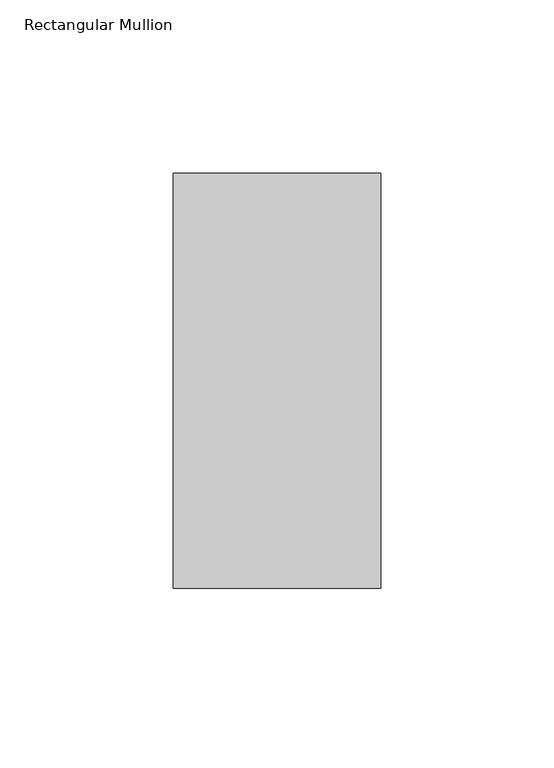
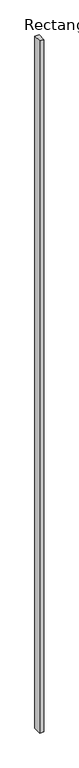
"""IFC4 building model written with IfcOpenShell, lengths in millimetres: member geometry, Rectangular Mullion : Terça."""

import ifcopenshell
import ifcopenshell.guid

model = None  # the IFC model being written
_history = None  # IfcOwnerHistory: only IFC2X3 demands one
_inside = {}  # id of a spatial element -> (the spatial element, [elements in it])
_under = {}  # id of a project, library or spatial element -> (it, [spatial elements below it])
_declared = {}  # id of a project -> (the project, [libraries it declares])
_typed = {}  # id of a type object -> (the type object, [elements of that type])
_made_of = {}  # id of a material, layer set ... -> (it, [elements and type objects made of it])


def new_model(schema):
    """Start an empty IFC model of exactly this schema.

    Asked for "IFC4X3", IfcOpenShell would pick the latest addendum, in which some entities
    have other attributes; the version numbers below select the first issue.
    IFC2X3 requires an IfcOwnerHistory on every rooted entity: one is made here for all.
    """
    global model, _history
    if schema == "IFC4X3":
        model = ifcopenshell.file(schema_version=(4, 3, 0, 0))
    else:
        model = ifcopenshell.file(schema=schema)
    _inside.clear()
    _under.clear()
    _declared.clear()
    _typed.clear()
    _made_of.clear()
    _history = None
    if model.schema == "IFC2X3":
        org = make("IfcOrganization", Name="unknown")
        user = make(
            "IfcPersonAndOrganization",
            ThePerson=make("IfcPerson", FamilyName="unknown"),
            TheOrganization=org,
        )
        app = make(
            "IfcApplication",
            ApplicationDeveloper=org,
            Version="unknown",
            ApplicationFullName="unknown",
            ApplicationIdentifier="unknown",
        )
        _history = make(
            "IfcOwnerHistory",
            OwningUser=user,
            OwningApplication=app,
            ChangeAction="ADDED",
            CreationDate=0,
        )
    return model


def make(cls, **values):
    """One entity of the class cls with the attributes given. An attribute that is None is left unset."""
    return model.create_entity(
        cls, **{name: value for name, value in values.items() if value is not None}
    )


def rooted(cls, **values):
    """An entity with a GlobalId (a new one), such as an element, a storey or a relation."""
    return make(cls, GlobalId=ifcopenshell.guid.new(), OwnerHistory=_history, **values)


def si_unit(unit_type, name, prefix=None):
    """IfcSIUnit, for example si_unit("LENGTHUNIT", "METRE", prefix="MILLI")."""
    return make("IfcSIUnit", UnitType=unit_type, Prefix=prefix, Name=name)


def assignment(units):
    """IfcUnitAssignment: the units of a project."""
    return None if units is None else make("IfcUnitAssignment", Units=units)


def point(xyz):
    """IfcCartesianPoint."""
    return None if xyz is None else make("IfcCartesianPoint", Coordinates=xyz)


def direction(xyz):
    """IfcDirection."""
    return None if xyz is None else make("IfcDirection", DirectionRatios=xyz)


def frame(location, z_axis=None, x_axis=None):
    """IfcAxis2Placement3D, a coordinate frame: its origin and axes. An axis left out is left unset."""
    return make(
        "IfcAxis2Placement3D",
        Location=point(location),
        Axis=direction(z_axis),
        RefDirection=direction(x_axis),
    )


def origin():
    """The frame at (0, 0, 0) with its axes left unset."""
    return frame((0.0, 0.0, 0.0))


def place(relative_to, where):
    """IfcLocalPlacement: puts the frame where relative to a parent placement (None: the world)."""
    return make(
        "IfcLocalPlacement", PlacementRelTo=relative_to, RelativePlacement=where
    )


def context(
    kind, dimensions, precision=None, world=None, true_north=None, identifier=None
):
    """IfcGeometricRepresentationContext, for example the 3D "Model" context."""
    return make(
        "IfcGeometricRepresentationContext",
        ContextIdentifier=identifier,
        ContextType=kind,
        CoordinateSpaceDimension=dimensions,
        Precision=precision,
        WorldCoordinateSystem=world,
        TrueNorth=true_north,
    )


def project(units=None, contexts=None):
    """IfcProject with its units and contexts."""
    return rooted(
        "IfcProject",
        Name="project",
        RepresentationContexts=contexts,
        UnitsInContext=assignment(units),
    )


def spatial(cls, under=None, at=None, **own):
    """A site, building, storey or space (cls), placed at a placement, below another one or the project."""
    s = rooted(cls, ObjectPlacement=at, **own)
    if under is not None:
        _under.setdefault(under.id(), (under, []))[1].append(s)
    return s


def polyline(points):
    """IfcPolyline through the points."""
    return make("IfcPolyline", Points=[point(p) for p in points])


def outline(outer, holes=None, kind="AREA"):
    """IfcArbitraryClosedProfileDef: a profile drawn as a closed curve; with holes, ...WithVoids."""
    if holes is None:
        return make("IfcArbitraryClosedProfileDef", ProfileType=kind, OuterCurve=outer)
    return make(
        "IfcArbitraryProfileDefWithVoids",
        ProfileType=kind,
        OuterCurve=outer,
        InnerCurves=holes,
    )


def extrude(swept, where, along, depth):
    """IfcExtrudedAreaSolid: the profile swept, set in the frame where, extruded along a direction by depth."""
    return make(
        "IfcExtrudedAreaSolid",
        SweptArea=swept,
        Position=where,
        ExtrudedDirection=direction(along),
        Depth=depth,
    )


def shape(context_of_items, identifier, shape_type, items):
    """IfcShapeRepresentation: the items that make up one representation, for example the "Body"."""
    return make(
        "IfcShapeRepresentation",
        ContextOfItems=context_of_items,
        RepresentationIdentifier=identifier,
        RepresentationType=shape_type,
        Items=items,
    )


def source(mapping_origin, context_of_items, identifier, shape_type, items):
    """IfcRepresentationMap: a shape defined once, which mapped items show again and again."""
    return make(
        "IfcRepresentationMap",
        MappingOrigin=mapping_origin,
        MappedRepresentation=shape(context_of_items, identifier, shape_type, items),
    )


def transform(
    local_origin,
    x_axis=None,
    y_axis=None,
    z_axis=None,
    scale=None,
    scale2=None,
    scale3=None,
    uniform=True,
):
    """IfcCartesianTransformationOperator3D, or its non-uniform kind. x_axis, y_axis, z_axis: its Axis1, 2, 3."""
    if uniform:
        return make(
            "IfcCartesianTransformationOperator3D",
            Axis1=direction(x_axis),
            Axis2=direction(y_axis),
            LocalOrigin=point(local_origin),
            Scale=scale,
            Axis3=direction(z_axis),
        )
    return make(
        "IfcCartesianTransformationOperator3DnonUniform",
        Axis1=direction(x_axis),
        Axis2=direction(y_axis),
        LocalOrigin=point(local_origin),
        Scale=scale,
        Axis3=direction(z_axis),
        Scale2=scale2,
        Scale3=scale3,
    )


def mapped(mapping_source, mapping_target):
    """IfcMappedItem: shows the shape of a source again, moved by a transform."""
    return make(
        "IfcMappedItem", MappingSource=mapping_source, MappingTarget=mapping_target
    )


def made_of(thing, what):
    """Note that an element or type object is made of a material, layer set ...; save() writes the relation."""
    if what is not None:
        _made_of.setdefault(what.id(), (what, []))[1].append(thing)
    return thing


def element(
    cls,
    number,
    at=None,
    inside=None,
    cuts=None,
    type_object=None,
    material=None,
    context=None,
    identifier="Body",
    shape_type=None,
    held_by="IfcProductDefinitionShape",
    body=None,
    shapes=None,
    **own,
):
    """One element of the class cls, such as IfcWall. Its Tag is "e" and its number.

    at: its placement. inside: the storey or other place that contains it. cuts: it is an
    opening in that element (IfcRelVoidsElement). A single representation is given by context,
    identifier, shape_type and body (its items); several are given by shapes. held_by: the class
    of the entity that holds the representations. save() writes the other relations.
    """
    e = rooted(cls, Tag="e%d" % number, ObjectPlacement=at, **own)
    if body is not None:
        shapes = [shape(context, identifier, shape_type, body)]
    if shapes is not None:
        e.Representation = make(held_by, Representations=shapes)
    if inside is not None:
        _inside.setdefault(inside.id(), (inside, []))[1].append(e)
    if cuts is not None:
        rooted(
            "IfcRelVoidsElement", RelatingBuildingElement=cuts, RelatedOpeningElement=e
        )
    if type_object is not None:
        _typed.setdefault(type_object.id(), (type_object, []))[1].append(e)
    return made_of(e, material)


def aggregate(whole, parts):
    """IfcRelAggregates: a whole, such as a stair, and the parts it consists of."""
    return rooted("IfcRelAggregates", RelatingObject=whole, RelatedObjects=parts)


def save(model, path):
    """Write the relations noted so far, then the file.

    IfcRelAggregates (storeys below a building ...), IfcRelContainedInSpatialStructure (elements
    in a storey), IfcRelDefinesByType, IfcRelAssociatesMaterial and IfcRelDeclares: one each for
    every whole, place, type object, material and project.
    """
    for whole, parts in _under.values():
        aggregate(whole, parts)
    for where, things in _inside.values():
        rooted(
            "IfcRelContainedInSpatialStructure",
            RelatedElements=things,
            RelatingStructure=where,
        )
    for kind, things in _typed.values():
        rooted("IfcRelDefinesByType", RelatedObjects=things, RelatingType=kind)
    for what, things in _made_of.values():
        rooted("IfcRelAssociatesMaterial", RelatedObjects=things, RelatingMaterial=what)
    for by, libraries in _declared.values():
        rooted("IfcRelDeclares", RelatingContext=by, RelatedDefinitions=libraries)
    model.write(path)


def rectangular_mullion_a06eaca0(model_context):
    return source(origin(), model_context, "Body", "SweptSolid", [
        extrude(outline(polyline([(-60.0, -120.0), (-60.0, 0.0), (0.0, 0.0), (0.0, -120.0), (-60.0, -120.0)])), frame((0.0, 0.0, -10660.1380994), z_axis=(0.0, 0.0, 1.0), x_axis=(1.0, 0.0, 0.0)), (0.0, 0.0, 1.0), 10660.1380994),
    ])


if __name__ == "__main__":
    model = new_model("IFC4")
    model_context = context("Model", 3, world=origin())
    ifc_project = project(units=[si_unit("LENGTHUNIT", "METRE", prefix="MILLI")], contexts=[model_context])
    site = spatial("IfcSite", under=ifc_project)
    building = spatial("IfcBuilding", under=site)
    placement = place(None, origin())
    rectangular_mullion_shape = rectangular_mullion_a06eaca0(model_context)
    element("IfcMember", 1, ObjectType="Rectangular Mullion : Terça", at=placement, inside=building, context=model_context, shape_type="MappedRepresentation", body=[
        mapped(rectangular_mullion_shape, transform((0.0, 0.0, 0.0), x_axis=(1.0, 0.0, 0.0), y_axis=(0.0, 1.0, 0.0), z_axis=(0.0, 0.0, 1.0))),
    ])
    save(model, "model.ifc")
